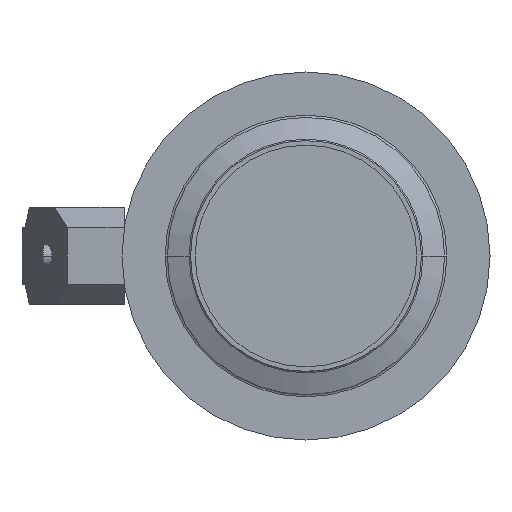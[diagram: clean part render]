
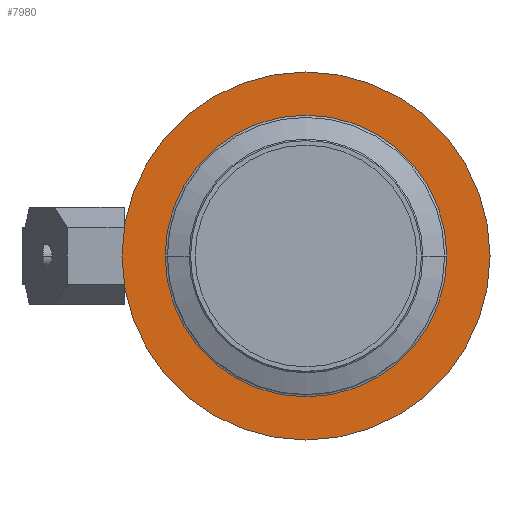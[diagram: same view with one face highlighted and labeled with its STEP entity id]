
A CAD part, left-side view. The second image highlights one B-rep face of the part: STEP entity #7980.
In plain terms, the highlighted planar face has unit normal (-1, 0, 0) as drawn and (1, 0, 0) by its records, which use the part's own axes.
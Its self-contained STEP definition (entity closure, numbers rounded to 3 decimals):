
#7500=CARTESIAN_POINT('',(-620.881,-101.392,
0.));
#7510=VERTEX_POINT('',#7500);
#7590=CARTESIAN_POINT('',(-620.881,60.608,0.));
#7600=VERTEX_POINT('',#7590);
#7630=CARTESIAN_POINT('',(-620.881,-20.392,0.));
#7640=DIRECTION('',(-1.,0.,0.));
#7650=DIRECTION('',(0.,1.,0.));
#7660=AXIS2_PLACEMENT_3D('',#7630,#7640,#7650);
#7670=CIRCLE('',#7660,81.);
#7680=EDGE_CURVE('',#7510,#7600,#7670,.T.);
#7730=CARTESIAN_POINT('',(-620.881,51.608,0.));
#7740=DIRECTION('',(-1.,0.,0.));
#7750=DIRECTION('',(0.,-1.,0.));
#7760=AXIS2_PLACEMENT_3D('',#7730,#7740,#7750);
#7770=PLANE('',#7760);
#7780=CARTESIAN_POINT('',(-620.881,-20.392,0.));
#7790=DIRECTION('',(-1.,0.,0.));
#7800=DIRECTION('',(0.,1.,0.));
#7810=AXIS2_PLACEMENT_3D('',#7780,#7790,#7800);
#7820=CIRCLE('',#7810,62.);
#7830=CARTESIAN_POINT('',(-620.881,41.608,0.));
#7840=VERTEX_POINT('',#7830);
#7850=CARTESIAN_POINT('',(-620.881,-82.392,0.));
#7860=VERTEX_POINT('',#7850);
#7870=EDGE_CURVE('',#7840,#7860,#7820,.T.);
#7880=ORIENTED_EDGE('',*,*,#7870,.T.);
#7890=EDGE_CURVE('',#7860,#7840,#7820,.T.);
#7900=ORIENTED_EDGE('',*,*,#7890,.T.);
#7910=EDGE_LOOP('',(#7900,#7880));
#7920=FACE_BOUND('',#7910,.T.);
#7930=EDGE_CURVE('',#7600,#7510,#7670,.T.);
#7940=ORIENTED_EDGE('',*,*,#7930,.F.);
#7950=ORIENTED_EDGE('',*,*,#7680,.F.);
#7960=EDGE_LOOP('',(#7950,#7940));
#7970=FACE_OUTER_BOUND('',#7960,.T.);
#7980=ADVANCED_FACE('',(#7920,#7970),#7770,.F.);
